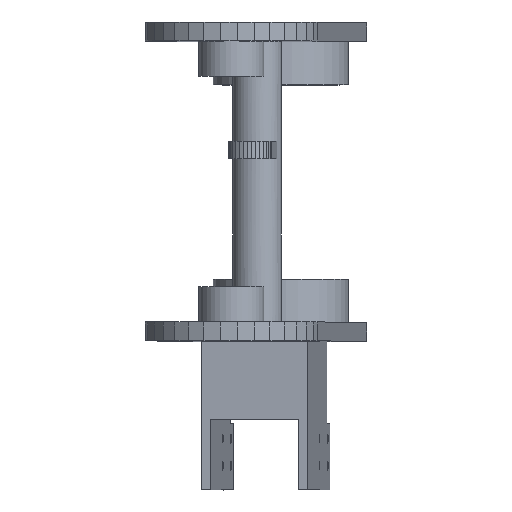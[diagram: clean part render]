
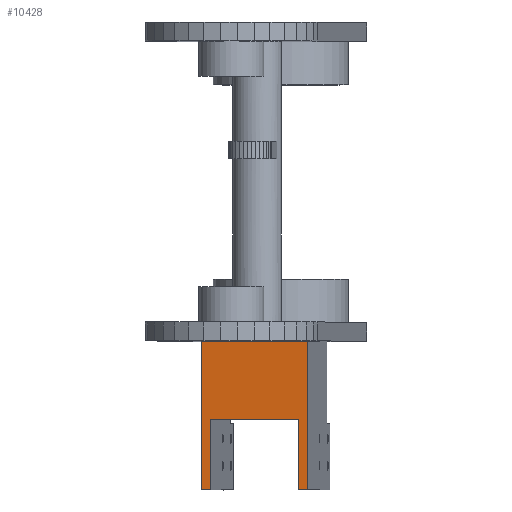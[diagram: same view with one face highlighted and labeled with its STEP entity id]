
A CAD part, top view. The second image highlights one B-rep face of the part: STEP entity #10428.
In plain terms, the highlighted planar face has unit normal (-0.126, 0, 0.992).
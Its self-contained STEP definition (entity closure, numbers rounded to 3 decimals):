
#7016 = PLANE('',#7017);
#7017 = AXIS2_PLACEMENT_3D('',#7018,#7019,#7020);
#7018 = CARTESIAN_POINT('',(95.875,-24.8,-284.02));
#7019 = DIRECTION('',(0.,1.,0.));
#7020 = DIRECTION('',(0.,-0.,1.));
#9980 = EDGE_CURVE('',#9981,#9983,#9985,.T.);
#9981 = VERTEX_POINT('',#9982);
#9982 = CARTESIAN_POINT('',(75.678,-24.8,-282.139));
#9983 = VERTEX_POINT('',#9984);
#9984 = CARTESIAN_POINT('',(114.964,-24.8,-277.162));
#9985 = SURFACE_CURVE('',#9986,(#9990,#9996),.PCURVE_S1.);
#9986 = LINE('',#9987,#9988);
#9987 = CARTESIAN_POINT('',(85.5,-24.8,-280.895));
#9988 = VECTOR('',#9989,1.);
#9989 = DIRECTION('',(0.992,-0.,0.126));
#9990 = PCURVE('',#7016,#9991);
#9991 = DEFINITIONAL_REPRESENTATION('',(#9992),#9995);
#9992 = B_SPLINE_CURVE_WITH_KNOTS('',1,(#9993,#9994),.UNSPECIFIED.,.F.,
  .F.,(2,2),(-9.9,29.7),.PIECEWISE_BEZIER_KNOTS.);
#9993 = CARTESIAN_POINT('',(1.881,-20.197));
#9994 = CARTESIAN_POINT('',(6.858,19.089));
#9995 = ( GEOMETRIC_REPRESENTATION_CONTEXT(2) 
PARAMETRIC_REPRESENTATION_CONTEXT() REPRESENTATION_CONTEXT('2D SPACE',''
  ) );
#9996 = PCURVE('',#9997,#10002);
#9997 = PLANE('',#9998);
#9998 = AXIS2_PLACEMENT_3D('',#9999,#10000,#10001);
#9999 = CARTESIAN_POINT('',(75.678,-79.8,-282.139));
#10000 = DIRECTION('',(-0.126,0.,0.992));
#10001 = DIRECTION('',(0.,1.,0.));
#10002 = DEFINITIONAL_REPRESENTATION('',(#10003),#10006);
#10003 = B_SPLINE_CURVE_WITH_KNOTS('',1,(#10004,#10005),.UNSPECIFIED.,
  .F.,.F.,(2,2),(-9.9,29.7),.PIECEWISE_BEZIER_KNOTS.);
#10004 = CARTESIAN_POINT('',(55.,0.));
#10005 = CARTESIAN_POINT('',(55.,-39.6));
#10006 = ( GEOMETRIC_REPRESENTATION_CONTEXT(2) 
PARAMETRIC_REPRESENTATION_CONTEXT() REPRESENTATION_CONTEXT('2D SPACE',''
  ) );
#10023 = PLANE('',#10024);
#10024 = AXIS2_PLACEMENT_3D('',#10025,#10026,#10027);
#10025 = CARTESIAN_POINT('',(83.974,-79.8,-347.616));
#10026 = DIRECTION('',(0.992,0.,0.126));
#10027 = DIRECTION('',(0.,1.,0.));
#10075 = PLANE('',#10076);
#10076 = AXIS2_PLACEMENT_3D('',#10077,#10078,#10079);
#10077 = CARTESIAN_POINT('',(87.447,-79.8,-347.176));
#10078 = DIRECTION('',(0.992,0.,0.126));
#10079 = DIRECTION('',(0.,1.,0.));
#10127 = PLANE('',#10128);
#10128 = AXIS2_PLACEMENT_3D('',#10129,#10130,#10131);
#10129 = CARTESIAN_POINT('',(119.788,-79.8,-343.078));
#10130 = DIRECTION('',(0.992,0.,0.126));
#10131 = DIRECTION('',(0.,1.,0.));
#10172 = PLANE('',#10173);
#10173 = AXIS2_PLACEMENT_3D('',#10174,#10175,#10176);
#10174 = CARTESIAN_POINT('',(123.26,-79.8,-342.638));
#10175 = DIRECTION('',(0.992,0.,0.126));
#10176 = DIRECTION('',(0.,1.,0.));
#10428 = ADVANCED_FACE('',(#10429),#9997,.T.);
#10429 = FACE_BOUND('',#10430,.T.);
#10430 = EDGE_LOOP('',(#10431,#10454,#10482,#10505,#10533,#10556,#10584,
    #10605));
#10431 = ORIENTED_EDGE('',*,*,#10432,.F.);
#10432 = EDGE_CURVE('',#10433,#9981,#10435,.T.);
#10433 = VERTEX_POINT('',#10434);
#10434 = CARTESIAN_POINT('',(75.678,-79.8,-282.139));
#10435 = SURFACE_CURVE('',#10436,(#10440,#10447),.PCURVE_S1.);
#10436 = LINE('',#10437,#10438);
#10437 = CARTESIAN_POINT('',(75.678,-79.8,-282.139));
#10438 = VECTOR('',#10439,1.);
#10439 = DIRECTION('',(0.,1.,0.));
#10440 = PCURVE('',#9997,#10441);
#10441 = DEFINITIONAL_REPRESENTATION('',(#10442),#10446);
#10442 = LINE('',#10443,#10444);
#10443 = CARTESIAN_POINT('',(0.,0.));
#10444 = VECTOR('',#10445,1.);
#10445 = DIRECTION('',(1.,0.));
#10446 = ( GEOMETRIC_REPRESENTATION_CONTEXT(2) 
PARAMETRIC_REPRESENTATION_CONTEXT() REPRESENTATION_CONTEXT('2D SPACE',''
  ) );
#10447 = PCURVE('',#10023,#10448);
#10448 = DEFINITIONAL_REPRESENTATION('',(#10449),#10453);
#10449 = LINE('',#10450,#10451);
#10450 = CARTESIAN_POINT('',(0.,66.));
#10451 = VECTOR('',#10452,1.);
#10452 = DIRECTION('',(1.,0.));
#10453 = ( GEOMETRIC_REPRESENTATION_CONTEXT(2) 
PARAMETRIC_REPRESENTATION_CONTEXT() REPRESENTATION_CONTEXT('2D SPACE',''
  ) );
#10454 = ORIENTED_EDGE('',*,*,#10455,.T.);
#10455 = EDGE_CURVE('',#10433,#10456,#10458,.T.);
#10456 = VERTEX_POINT('',#10457);
#10457 = CARTESIAN_POINT('',(79.151,-79.8,-281.7));
#10458 = SURFACE_CURVE('',#10459,(#10463,#10470),.PCURVE_S1.);
#10459 = LINE('',#10460,#10461);
#10460 = CARTESIAN_POINT('',(75.678,-79.8,-282.139));
#10461 = VECTOR('',#10462,1.);
#10462 = DIRECTION('',(0.992,0.,0.126));
#10463 = PCURVE('',#9997,#10464);
#10464 = DEFINITIONAL_REPRESENTATION('',(#10465),#10469);
#10465 = LINE('',#10466,#10467);
#10466 = CARTESIAN_POINT('',(0.,0.));
#10467 = VECTOR('',#10468,1.);
#10468 = DIRECTION('',(0.,-1.));
#10469 = ( GEOMETRIC_REPRESENTATION_CONTEXT(2) 
PARAMETRIC_REPRESENTATION_CONTEXT() REPRESENTATION_CONTEXT('2D SPACE',''
  ) );
#10470 = PCURVE('',#10471,#10476);
#10471 = PLANE('',#10472);
#10472 = AXIS2_PLACEMENT_3D('',#10473,#10474,#10475);
#10473 = CARTESIAN_POINT('',(83.974,-79.8,-347.616));
#10474 = DIRECTION('',(0.,1.,0.));
#10475 = DIRECTION('',(-0.126,0.,0.992));
#10476 = DEFINITIONAL_REPRESENTATION('',(#10477),#10481);
#10477 = LINE('',#10478,#10479);
#10478 = CARTESIAN_POINT('',(66.,0.));
#10479 = VECTOR('',#10480,1.);
#10480 = DIRECTION('',(0.,1.));
#10481 = ( GEOMETRIC_REPRESENTATION_CONTEXT(2) 
PARAMETRIC_REPRESENTATION_CONTEXT() REPRESENTATION_CONTEXT('2D SPACE',''
  ) );
#10482 = ORIENTED_EDGE('',*,*,#10483,.F.);
#10483 = EDGE_CURVE('',#10484,#10456,#10486,.T.);
#10484 = VERTEX_POINT('',#10485);
#10485 = CARTESIAN_POINT('',(79.151,-53.8,-281.7));
#10486 = SURFACE_CURVE('',#10487,(#10491,#10498),.PCURVE_S1.);
#10487 = LINE('',#10488,#10489);
#10488 = CARTESIAN_POINT('',(79.151,-24.2,-281.7));
#10489 = VECTOR('',#10490,1.);
#10490 = DIRECTION('',(0.,-1.,0.));
#10491 = PCURVE('',#9997,#10492);
#10492 = DEFINITIONAL_REPRESENTATION('',(#10493),#10497);
#10493 = LINE('',#10494,#10495);
#10494 = CARTESIAN_POINT('',(55.6,-3.5));
#10495 = VECTOR('',#10496,1.);
#10496 = DIRECTION('',(-1.,0.));
#10497 = ( GEOMETRIC_REPRESENTATION_CONTEXT(2) 
PARAMETRIC_REPRESENTATION_CONTEXT() REPRESENTATION_CONTEXT('2D SPACE',''
  ) );
#10498 = PCURVE('',#10075,#10499);
#10499 = DEFINITIONAL_REPRESENTATION('',(#10500),#10504);
#10500 = LINE('',#10501,#10502);
#10501 = CARTESIAN_POINT('',(55.6,66.));
#10502 = VECTOR('',#10503,1.);
#10503 = DIRECTION('',(-1.,0.));
#10504 = ( GEOMETRIC_REPRESENTATION_CONTEXT(2) 
PARAMETRIC_REPRESENTATION_CONTEXT() REPRESENTATION_CONTEXT('2D SPACE',''
  ) );
#10505 = ORIENTED_EDGE('',*,*,#10506,.T.);
#10506 = EDGE_CURVE('',#10484,#10507,#10509,.T.);
#10507 = VERTEX_POINT('',#10508);
#10508 = CARTESIAN_POINT('',(111.492,-53.8,-277.602));
#10509 = SURFACE_CURVE('',#10510,(#10514,#10521),.PCURVE_S1.);
#10510 = LINE('',#10511,#10512);
#10511 = CARTESIAN_POINT('',(75.678,-53.8,-282.139));
#10512 = VECTOR('',#10513,1.);
#10513 = DIRECTION('',(0.992,0.,0.126));
#10514 = PCURVE('',#9997,#10515);
#10515 = DEFINITIONAL_REPRESENTATION('',(#10516),#10520);
#10516 = LINE('',#10517,#10518);
#10517 = CARTESIAN_POINT('',(26.,0.));
#10518 = VECTOR('',#10519,1.);
#10519 = DIRECTION('',(0.,-1.));
#10520 = ( GEOMETRIC_REPRESENTATION_CONTEXT(2) 
PARAMETRIC_REPRESENTATION_CONTEXT() REPRESENTATION_CONTEXT('2D SPACE',''
  ) );
#10521 = PCURVE('',#10522,#10527);
#10522 = PLANE('',#10523);
#10523 = AXIS2_PLACEMENT_3D('',#10524,#10525,#10526);
#10524 = CARTESIAN_POINT('',(76.056,-53.8,-285.116));
#10525 = DIRECTION('',(0.,1.,0.));
#10526 = DIRECTION('',(-0.126,0.,0.992));
#10527 = DEFINITIONAL_REPRESENTATION('',(#10528),#10532);
#10528 = LINE('',#10529,#10530);
#10529 = CARTESIAN_POINT('',(3.,0.));
#10530 = VECTOR('',#10531,1.);
#10531 = DIRECTION('',(0.,1.));
#10532 = ( GEOMETRIC_REPRESENTATION_CONTEXT(2) 
PARAMETRIC_REPRESENTATION_CONTEXT() REPRESENTATION_CONTEXT('2D SPACE',''
  ) );
#10533 = ORIENTED_EDGE('',*,*,#10534,.F.);
#10534 = EDGE_CURVE('',#10535,#10507,#10537,.T.);
#10535 = VERTEX_POINT('',#10536);
#10536 = CARTESIAN_POINT('',(111.492,-79.8,-277.602));
#10537 = SURFACE_CURVE('',#10538,(#10542,#10549),.PCURVE_S1.);
#10538 = LINE('',#10539,#10540);
#10539 = CARTESIAN_POINT('',(111.492,-79.8,-277.602));
#10540 = VECTOR('',#10541,1.);
#10541 = DIRECTION('',(0.,1.,0.));
#10542 = PCURVE('',#9997,#10543);
#10543 = DEFINITIONAL_REPRESENTATION('',(#10544),#10548);
#10544 = LINE('',#10545,#10546);
#10545 = CARTESIAN_POINT('',(0.,-36.1));
#10546 = VECTOR('',#10547,1.);
#10547 = DIRECTION('',(1.,0.));
#10548 = ( GEOMETRIC_REPRESENTATION_CONTEXT(2) 
PARAMETRIC_REPRESENTATION_CONTEXT() REPRESENTATION_CONTEXT('2D SPACE',''
  ) );
#10549 = PCURVE('',#10127,#10550);
#10550 = DEFINITIONAL_REPRESENTATION('',(#10551),#10555);
#10551 = LINE('',#10552,#10553);
#10552 = CARTESIAN_POINT('',(0.,66.));
#10553 = VECTOR('',#10554,1.);
#10554 = DIRECTION('',(1.,0.));
#10555 = ( GEOMETRIC_REPRESENTATION_CONTEXT(2) 
PARAMETRIC_REPRESENTATION_CONTEXT() REPRESENTATION_CONTEXT('2D SPACE',''
  ) );
#10556 = ORIENTED_EDGE('',*,*,#10557,.T.);
#10557 = EDGE_CURVE('',#10535,#10558,#10560,.T.);
#10558 = VERTEX_POINT('',#10559);
#10559 = CARTESIAN_POINT('',(114.964,-79.8,-277.162));
#10560 = SURFACE_CURVE('',#10561,(#10565,#10572),.PCURVE_S1.);
#10561 = LINE('',#10562,#10563);
#10562 = CARTESIAN_POINT('',(111.492,-79.8,-277.602));
#10563 = VECTOR('',#10564,1.);
#10564 = DIRECTION('',(0.992,0.,0.126));
#10565 = PCURVE('',#9997,#10566);
#10566 = DEFINITIONAL_REPRESENTATION('',(#10567),#10571);
#10567 = LINE('',#10568,#10569);
#10568 = CARTESIAN_POINT('',(0.,-36.1));
#10569 = VECTOR('',#10570,1.);
#10570 = DIRECTION('',(0.,-1.));
#10571 = ( GEOMETRIC_REPRESENTATION_CONTEXT(2) 
PARAMETRIC_REPRESENTATION_CONTEXT() REPRESENTATION_CONTEXT('2D SPACE',''
  ) );
#10572 = PCURVE('',#10573,#10578);
#10573 = PLANE('',#10574);
#10574 = AXIS2_PLACEMENT_3D('',#10575,#10576,#10577);
#10575 = CARTESIAN_POINT('',(119.788,-79.8,-343.078));
#10576 = DIRECTION('',(0.,1.,0.));
#10577 = DIRECTION('',(-0.126,0.,0.992));
#10578 = DEFINITIONAL_REPRESENTATION('',(#10579),#10583);
#10579 = LINE('',#10580,#10581);
#10580 = CARTESIAN_POINT('',(66.,0.));
#10581 = VECTOR('',#10582,1.);
#10582 = DIRECTION('',(0.,1.));
#10583 = ( GEOMETRIC_REPRESENTATION_CONTEXT(2) 
PARAMETRIC_REPRESENTATION_CONTEXT() REPRESENTATION_CONTEXT('2D SPACE',''
  ) );
#10584 = ORIENTED_EDGE('',*,*,#10585,.T.);
#10585 = EDGE_CURVE('',#10558,#9983,#10586,.T.);
#10586 = SURFACE_CURVE('',#10587,(#10591,#10598),.PCURVE_S1.);
#10587 = LINE('',#10588,#10589);
#10588 = CARTESIAN_POINT('',(114.964,-79.8,-277.162));
#10589 = VECTOR('',#10590,1.);
#10590 = DIRECTION('',(0.,1.,0.));
#10591 = PCURVE('',#9997,#10592);
#10592 = DEFINITIONAL_REPRESENTATION('',(#10593),#10597);
#10593 = LINE('',#10594,#10595);
#10594 = CARTESIAN_POINT('',(0.,-39.6));
#10595 = VECTOR('',#10596,1.);
#10596 = DIRECTION('',(1.,0.));
#10597 = ( GEOMETRIC_REPRESENTATION_CONTEXT(2) 
PARAMETRIC_REPRESENTATION_CONTEXT() REPRESENTATION_CONTEXT('2D SPACE',''
  ) );
#10598 = PCURVE('',#10172,#10599);
#10599 = DEFINITIONAL_REPRESENTATION('',(#10600),#10604);
#10600 = LINE('',#10601,#10602);
#10601 = CARTESIAN_POINT('',(0.,66.));
#10602 = VECTOR('',#10603,1.);
#10603 = DIRECTION('',(1.,0.));
#10604 = ( GEOMETRIC_REPRESENTATION_CONTEXT(2) 
PARAMETRIC_REPRESENTATION_CONTEXT() REPRESENTATION_CONTEXT('2D SPACE',''
  ) );
#10605 = ORIENTED_EDGE('',*,*,#9980,.F.);
